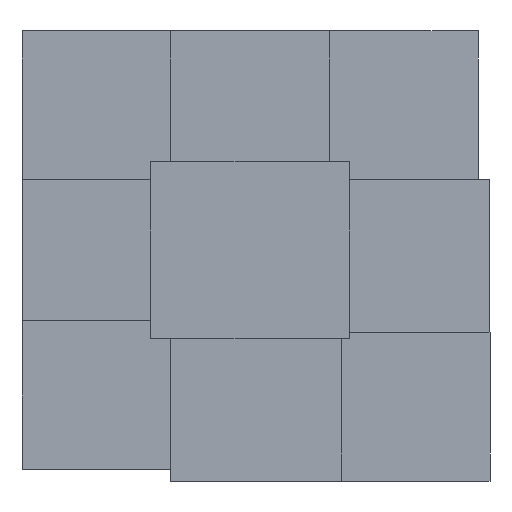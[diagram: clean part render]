
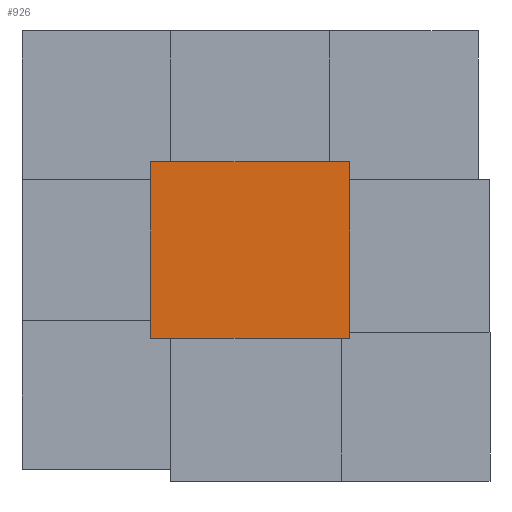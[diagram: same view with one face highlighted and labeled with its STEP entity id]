
A CAD part, left-side view. The second image highlights one B-rep face of the part: STEP entity #926.
In plain terms, the highlighted planar face has unit normal (-1, 0, 0).
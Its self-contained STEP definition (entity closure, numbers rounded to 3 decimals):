
#808=CARTESIAN_POINT('Line Origine',(0.,0.,59.5)) ;
#812=CARTESIAN_POINT('Vertex',(0.,0.,0.)) ;
#814=CARTESIAN_POINT('Vertex',(0.,0.,119.)) ;
#883=CARTESIAN_POINT('Vertex',(0.,134.,0.)) ;
#886=CARTESIAN_POINT('Line Origine',(0.,134.,59.5)) ;
#890=CARTESIAN_POINT('Vertex',(0.,134.,119.)) ;
#905=CARTESIAN_POINT('Axis2P3D Location',(0.,134.,0.)) ;
#910=CARTESIAN_POINT('Line Origine',(0.,67.,0.)) ;
#915=CARTESIAN_POINT('Line Origine',(0.,67.,119.)) ;
#809=DIRECTION('Vector Direction',(0.,0.,1.)) ;
#887=DIRECTION('Vector Direction',(0.,0.,1.)) ;
#906=DIRECTION('Axis2P3D Direction',(-1.,0.,0.)) ;
#907=DIRECTION('Axis2P3D XDirection',(0.,-1.,0.)) ;
#911=DIRECTION('Vector Direction',(0.,-1.,0.)) ;
#916=DIRECTION('Vector Direction',(0.,-1.,0.)) ;
#908=AXIS2_PLACEMENT_3D('Plane Axis2P3D',#905,#906,#907) ;
#921=ORIENTED_EDGE('',*,*,#892,.F.) ;
#922=ORIENTED_EDGE('',*,*,#914,.T.) ;
#923=ORIENTED_EDGE('',*,*,#816,.T.) ;
#924=ORIENTED_EDGE('',*,*,#919,.F.) ;
#810=VECTOR('Line Direction',#809,1.) ;
#888=VECTOR('Line Direction',#887,1.) ;
#912=VECTOR('Line Direction',#911,1.) ;
#917=VECTOR('Line Direction',#916,1.) ;
#926=ADVANCED_FACE('Body.2-molde-superior',(#925),#909,.T.) ;
#816=EDGE_CURVE('',#813,#815,#811,.T.) ;
#892=EDGE_CURVE('',#884,#891,#889,.T.) ;
#914=EDGE_CURVE('',#884,#813,#913,.T.) ;
#919=EDGE_CURVE('',#891,#815,#918,.T.) ;
#920=EDGE_LOOP('',(#921,#922,#923,#924)) ;
#925=FACE_OUTER_BOUND('',#920,.T.) ;
#811=LINE('Line',#808,#810) ;
#889=LINE('Line',#886,#888) ;
#913=LINE('Line',#910,#912) ;
#918=LINE('Line',#915,#917) ;
#909=PLANE('',#908) ;
#813=VERTEX_POINT('',#812) ;
#815=VERTEX_POINT('',#814) ;
#884=VERTEX_POINT('',#883) ;
#891=VERTEX_POINT('',#890) ;
